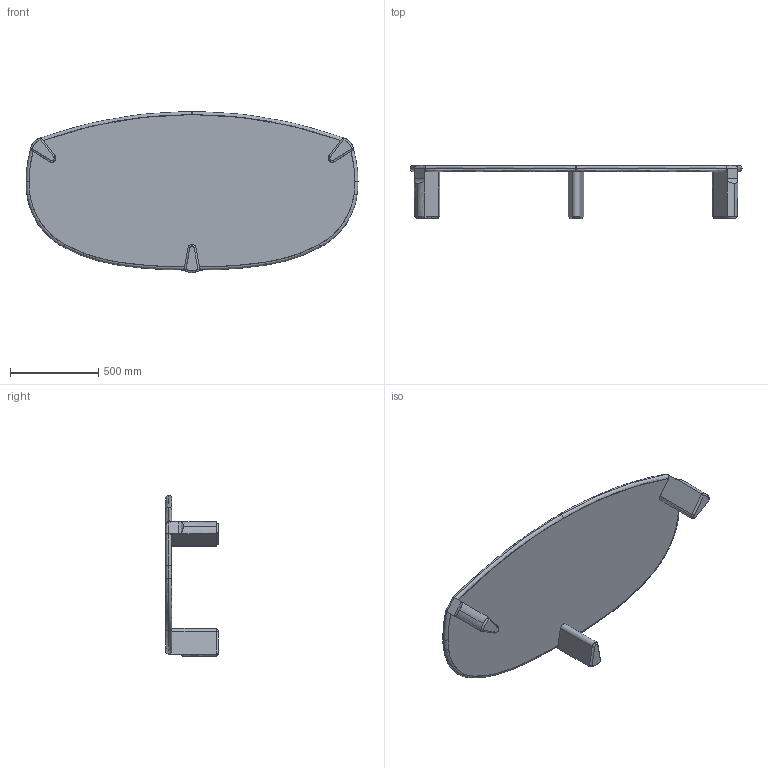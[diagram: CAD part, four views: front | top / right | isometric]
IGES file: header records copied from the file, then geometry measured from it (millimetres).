
Start section: SolidWorks IGES file using analytic representation for surfaces
Global section: file name: C:\Users\Utilizador\Desktop\Sales Files\686\686G Twenty-Five Coffee Table_3D IGS.IGS; native system: SolidWorks 2016; preprocessor: SolidWorks 2016; author: Utilizador; date: 221021.165807; units: millimetre
Bounding box: 1884.02 x 300 x 914 mm (x, y, z)
Surface area: 3327908.1 mm2 (no closed solid volume)
Topology: 0 solids, 0 shells, 150 faces, 2670 edges, 2670 vertices
Faces by surface type: bspline 79, revolution 71
